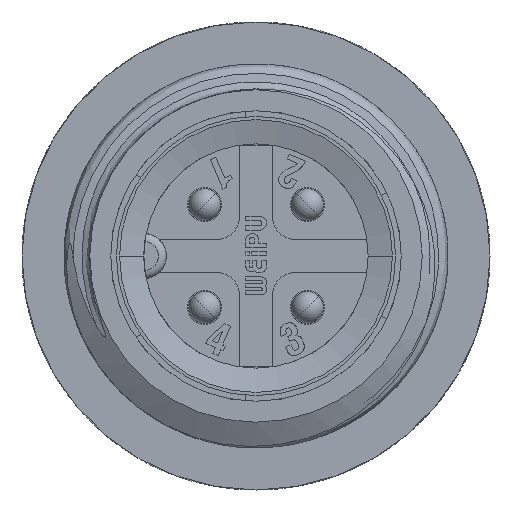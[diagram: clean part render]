
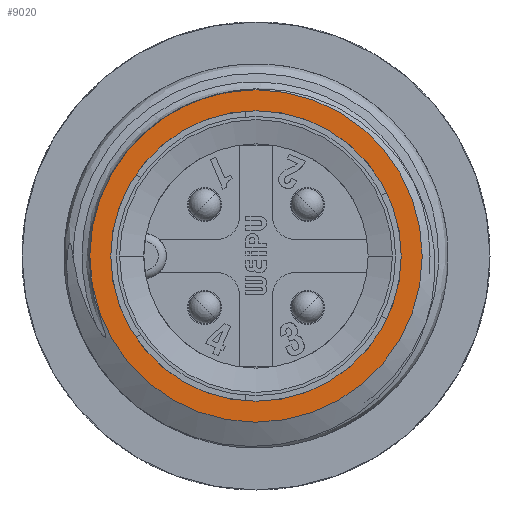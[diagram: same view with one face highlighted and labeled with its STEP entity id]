
A CAD part, left-side view. The second image highlights one B-rep face of the part: STEP entity #9020.
In plain terms, the highlighted planar face has unit normal (-1, 0, 0).
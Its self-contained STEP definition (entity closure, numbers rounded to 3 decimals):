
#1012=CARTESIAN_POINT('',(42.5,10.136,1.832));
#1013=CARTESIAN_POINT('',(42.5,10.134,1.84));
#1014=CARTESIAN_POINT('',(42.5,10.131,1.857));
#1015=CARTESIAN_POINT('',(42.5,10.127,1.879));
#1016=CARTESIAN_POINT('',(42.5,10.124,1.896));
#1017=CARTESIAN_POINT('',(42.5,10.122,1.905));
#1019=CARTESIAN_POINT('',(42.5,0.,0.));
#1020=DIRECTION('',(1.,0.,0.));
#1021=DIRECTION('',(0.,0.983,0.185));
#1022=AXIS2_PLACEMENT_3D('',#1019,#1020,#1021);
#1024=CARTESIAN_POINT('',(42.5,0.,0.));
#1025=DIRECTION('',(1.,0.,0.));
#1026=DIRECTION('',(0.,0.545,0.838));
#1027=AXIS2_PLACEMENT_3D('',#1024,#1025,#1026);
#1029=CARTESIAN_POINT('',(42.5,0.,0.));
#1030=DIRECTION('',(1.,0.,0.));
#1031=DIRECTION('',(0.,0.,1.));
#1032=AXIS2_PLACEMENT_3D('',#1029,#1030,#1031);
#1034=CARTESIAN_POINT('',(42.5,0.,0.));
#1035=DIRECTION('',(-1.,0.,0.));
#1036=DIRECTION('',(0.,1.,0.));
#1037=AXIS2_PLACEMENT_3D('',#1034,#1035,#1036);
#1039=CARTESIAN_POINT('',(42.5,0.,0.));
#1040=DIRECTION('',(-1.,0.,0.));
#1041=DIRECTION('',(0.,-1.,0.));
#1042=AXIS2_PLACEMENT_3D('',#1039,#1040,#1041);
#7514=CARTESIAN_POINT('',(42.5,-9.,0.));
#7515=VERTEX_POINT('',#7514);
#7517=CARTESIAN_POINT('',(42.5,9.,0.));
#7519=VERTEX_POINT('',#7517);
#7613=VERTEX_POINT('',#1012);
#7614=VERTEX_POINT('',#1017);
#7636=CARTESIAN_POINT('',(42.5,5.615,8.635));
#7637=VERTEX_POINT('',#7636);
#7647=CARTESIAN_POINT('',(42.5,0.,10.3));
#7648=VERTEX_POINT('',#7647);
#9001=CARTESIAN_POINT('',(42.5,0.,0.));
#9002=DIRECTION('',(1.,0.,0.));
#9003=DIRECTION('',(0.,1.,0.));
#9004=AXIS2_PLACEMENT_3D('',#9001,#9002,#9003);
#9005=PLANE('',#9004);
#9007=ORIENTED_EDGE('',*,*,#9006,.T.);
#9009=ORIENTED_EDGE('',*,*,#9008,.T.);
#9011=ORIENTED_EDGE('',*,*,#9010,.T.);
#9013=ORIENTED_EDGE('',*,*,#9012,.T.);
#9014=EDGE_LOOP('',(#9007,#9009,#9011,#9013));
#9015=FACE_OUTER_BOUND('',#9014,.F.);
#9016=ORIENTED_EDGE('',*,*,#8523,.T.);
#9017=ORIENTED_EDGE('',*,*,#8783,.T.);
#9018=EDGE_LOOP('',(#9016,#9017));
#9019=FACE_BOUND('',#9018,.F.);
#1018=B_SPLINE_CURVE_WITH_KNOTS('',3,(#1012,#1013,#1014,#1015,#1016,#1017),
.UNSPECIFIED.,.F.,.F.,(4,1,1,4),(0.,0.333,0.667,1.),
.UNSPECIFIED.);
#1023=CIRCLE('',#1022,10.3);
#1028=CIRCLE('',#1027,10.3);
#1033=CIRCLE('',#1032,10.3);
#1038=CIRCLE('',#1037,9.);
#1043=CIRCLE('',#1042,9.);
#8523=EDGE_CURVE('',#7519,#7515,#1038,.T.);
#8783=EDGE_CURVE('',#7515,#7519,#1043,.T.);
#9006=EDGE_CURVE('',#7613,#7614,#1018,.T.);
#9008=EDGE_CURVE('',#7614,#7637,#1023,.T.);
#9010=EDGE_CURVE('',#7637,#7648,#1028,.T.);
#9012=EDGE_CURVE('',#7648,#7613,#1033,.T.);
#9020=ADVANCED_FACE('',(#9015,#9019),#9005,.F.);
